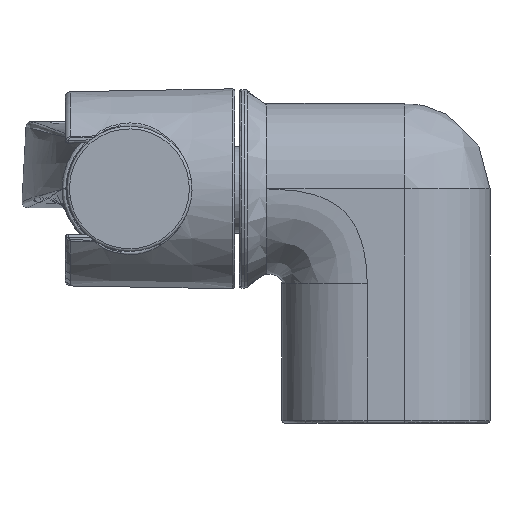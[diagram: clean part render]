
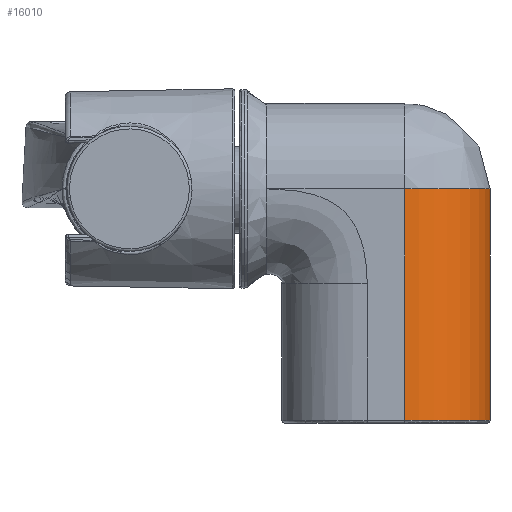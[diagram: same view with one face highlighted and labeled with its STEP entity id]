
A CAD part, front view. The second image highlights one B-rep face of the part: STEP entity #16010.
In plain terms, the highlighted cylindrical face has radius 15.85 mm (diameter 31.7 mm), a partial arc.
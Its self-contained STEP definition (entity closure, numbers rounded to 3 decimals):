
#554 = EDGE_CURVE ( 'NONE', #10209, #3693, #9064, .T. ) ;
#582 = LINE ( 'NONE', #15362, #3365 ) ;
#1056 = ORIENTED_EDGE ( 'NONE', *, *, #8306, .T. ) ;
#1310 = DIRECTION ( 'NONE',  ( 1., 0., 0. ) ) ;
#1644 = ORIENTED_EDGE ( 'NONE', *, *, #8164, .T. ) ;
#1892 = VERTEX_POINT ( 'NONE', #12013 ) ;
#2481 = ORIENTED_EDGE ( 'NONE', *, *, #554, .F. ) ;
#2583 = DIRECTION ( 'NONE',  ( 0., 0., -1. ) ) ;
#2869 = EDGE_CURVE ( 'NONE', #1892, #3693, #15269, .T. ) ;
#3185 = CARTESIAN_POINT ( 'NONE',  ( 7., 71.804, 37.144 ) ) ;
#3188 = DIRECTION ( 'NONE',  ( 0., 0., -1. ) ) ;
#3365 = VECTOR ( 'NONE', #5820, 1000. ) ;
#3693 = VERTEX_POINT ( 'NONE', #6900 ) ;
#3736 = VECTOR ( 'NONE', #2583, 1000. ) ;
#3992 = FACE_OUTER_BOUND ( 'NONE', #8891, .T. ) ;
#4469 = CARTESIAN_POINT ( 'NONE',  ( 7., 71.804, 37.144 ) ) ;
#5365 = CYLINDRICAL_SURFACE ( 'NONE', #16263, 15.85 ) ;
#5820 = DIRECTION ( 'NONE',  ( 0., 0., -1. ) ) ;
#5832 = ORIENTED_EDGE ( 'NONE', *, *, #2869, .T. ) ;
#6705 = VERTEX_POINT ( 'NONE', #12084 ) ;
#6900 = CARTESIAN_POINT ( 'NONE',  ( 22.85, 71.804, -5.856 ) ) ;
#7511 = CIRCLE ( 'NONE', #15941, 15.85 ) ;
#7882 = CARTESIAN_POINT ( 'NONE',  ( 22.85, 71.804, 37.144 ) ) ;
#8164 = EDGE_CURVE ( 'NONE', #10209, #6705, #7511, .T. ) ;
#8267 = DIRECTION ( 'NONE',  ( 1., 0., 0. ) ) ;
#8306 = EDGE_CURVE ( 'NONE', #6705, #1892, #582, .T. ) ;
#8891 = EDGE_LOOP ( 'NONE', ( #2481, #1644, #1056, #5832 ) ) ;
#9064 = LINE ( 'NONE', #7882, #3736 ) ;
#10209 = VERTEX_POINT ( 'NONE', #10784 ) ;
#10784 = CARTESIAN_POINT ( 'NONE',  ( 22.85, 71.804, 37.144 ) ) ;
#11241 = DIRECTION ( 'NONE',  ( 0., 0., 1. ) ) ;
#12013 = CARTESIAN_POINT ( 'NONE',  ( 7., 55.954, -5.856 ) ) ;
#12084 = CARTESIAN_POINT ( 'NONE',  ( 7., 55.954, 37.144 ) ) ;
#12657 = CARTESIAN_POINT ( 'NONE',  ( 7., 71.804, -5.856 ) ) ;
#13069 = DIRECTION ( 'NONE',  ( 0., 0., -1. ) ) ;
#14691 = DIRECTION ( 'NONE',  ( 1., 0., 0. ) ) ;
#14716 = AXIS2_PLACEMENT_3D ( 'NONE', #12657, #11241, #1310 ) ;
#15269 = CIRCLE ( 'NONE', #14716, 15.85 ) ;
#15362 = CARTESIAN_POINT ( 'NONE',  ( 7., 55.954, 37.144 ) ) ;
#15941 = AXIS2_PLACEMENT_3D ( 'NONE', #4469, #3188, #14691 ) ;
#16010 = ADVANCED_FACE ( 'NONE', ( #3992 ), #5365, .T. ) ;
#16263 = AXIS2_PLACEMENT_3D ( 'NONE', #3185, #13069, #8267 ) ;
